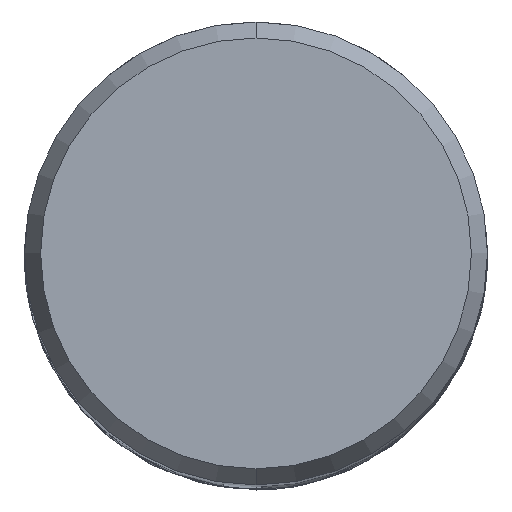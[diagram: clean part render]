
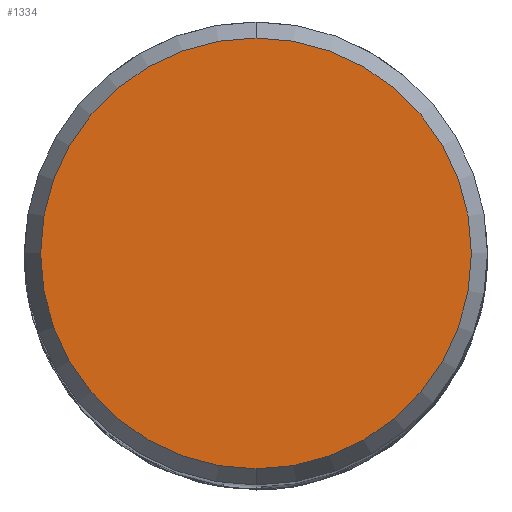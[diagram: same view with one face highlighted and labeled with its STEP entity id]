
A CAD part, top view. The second image highlights one B-rep face of the part: STEP entity #1334.
In plain terms, the highlighted planar face has unit normal (0, 0, 1).
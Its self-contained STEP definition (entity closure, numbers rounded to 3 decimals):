
#934=EDGE_CURVE('',#1524,#1778,#2375,.T.);
#1334=ADVANCED_FACE('',(#2807),#2808,.T.);
#1524=VERTEX_POINT('',#3009);
#1552=EDGE_CURVE('',#1778,#1524,#3040,.T.);
#1778=VERTEX_POINT('',#3291);
#2375=CIRCLE('',#5906,9.307);
#2807=FACE_OUTER_BOUND('',#11710,.T.);
#2808=PLANE('',#11711);
#3009=CARTESIAN_POINT('',(0.,-9.307,0.0));
#3040=CIRCLE('',#13994,9.307);
#3291=CARTESIAN_POINT('',(0.0,9.307,0.0));
#5906=AXIS2_PLACEMENT_3D('',#23573,#23574,#23575);
#11710=EDGE_LOOP('',(#23929,#23930));
#11711=AXIS2_PLACEMENT_3D('',#23931,#23932,#23933);
#13994=AXIS2_PLACEMENT_3D('',#24102,#24103,#24104);
#23573=CARTESIAN_POINT('',(0.0,0.0,0.0));
#23574=DIRECTION('',(0.0,0.0,-1.0));
#23575=DIRECTION('',(0.0,1.0,0.0));
#23929=ORIENTED_EDGE('',*,*,#1552,.F.);
#23930=ORIENTED_EDGE('',*,*,#934,.F.);
#23931=CARTESIAN_POINT('',(0.0,4.654,0.0));
#23932=DIRECTION('',(-0.0,0.0,1.0));
#23933=DIRECTION('',(0.0,-1.0,0.0));
#24102=CARTESIAN_POINT('',(0.0,0.0,0.0));
#24103=DIRECTION('',(0.0,0.0,-1.0));
#24104=DIRECTION('',(0.0,1.0,0.0));
